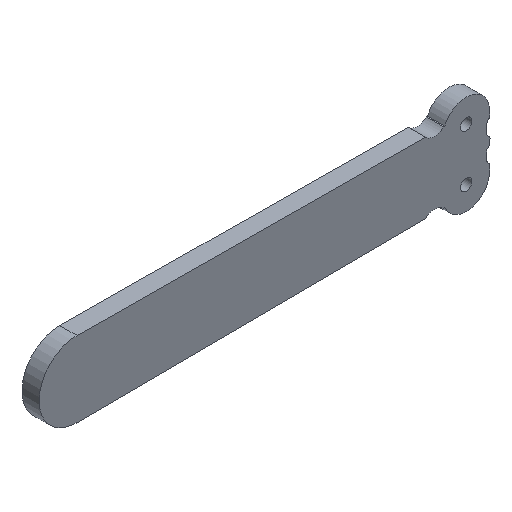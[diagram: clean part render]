
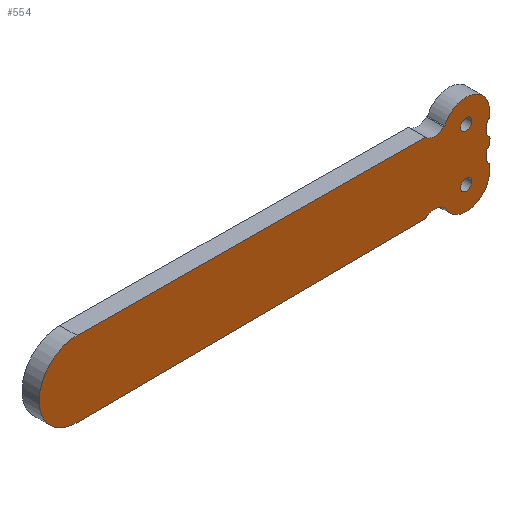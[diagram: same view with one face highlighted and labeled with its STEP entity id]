
A CAD part, isometric view. The second image highlights one B-rep face of the part: STEP entity #554.
In plain terms, the highlighted planar face has unit normal (0, -1, 0).
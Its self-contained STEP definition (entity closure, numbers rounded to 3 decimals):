
#23=FACE_BOUND('',#76,.T.);
#24=FACE_BOUND('',#77,.T.);
#27=PLANE('',#615);
#46=FACE_OUTER_BOUND('',#75,.T.);
#75=EDGE_LOOP('',(#388,#389,#390,#391,#392,#393,#394,#395,#396,#397,#398,
#399,#400,#401,#402,#403,#404,#405,#406,#407,#408,#409,#410,#411,#412));
#76=EDGE_LOOP('',(#413));
#77=EDGE_LOOP('',(#414));
#109=LINE('',#864,#164);
#110=LINE('',#868,#165);
#111=LINE('',#870,#166);
#112=LINE('',#874,#167);
#113=LINE('',#876,#168);
#114=LINE('',#880,#169);
#115=LINE('',#882,#170);
#116=LINE('',#886,#171);
#117=LINE('',#890,#172);
#118=LINE('',#894,#173);
#119=LINE('',#898,#174);
#120=LINE('',#902,#175);
#121=LINE('',#906,#176);
#122=LINE('',#909,#177);
#164=VECTOR('',#692,10.);
#165=VECTOR('',#695,10.);
#166=VECTOR('',#696,10.);
#167=VECTOR('',#699,10.);
#168=VECTOR('',#700,10.);
#169=VECTOR('',#703,10.);
#170=VECTOR('',#704,10.);
#171=VECTOR('',#707,10.);
#172=VECTOR('',#710,10.);
#173=VECTOR('',#713,10.);
#174=VECTOR('',#716,10.);
#175=VECTOR('',#719,10.);
#176=VECTOR('',#722,10.);
#177=VECTOR('',#725,10.);
#215=CIRCLE('',#607,1.575);
#217=CIRCLE('',#610,1.575);
#220=CIRCLE('',#614,1.);
#221=CIRCLE('',#616,1.);
#222=CIRCLE('',#617,1.);
#223=CIRCLE('',#618,1.);
#224=CIRCLE('',#619,1.);
#225=CIRCLE('',#620,1.);
#226=CIRCLE('',#621,6.5);
#227=CIRCLE('',#622,3.5);
#228=CIRCLE('',#623,10.503);
#229=CIRCLE('',#624,3.5);
#230=CIRCLE('',#625,6.5);
#241=VERTEX_POINT('',#842);
#243=VERTEX_POINT('',#848);
#247=VERTEX_POINT('',#857);
#248=VERTEX_POINT('',#859);
#249=VERTEX_POINT('',#863);
#250=VERTEX_POINT('',#865);
#251=VERTEX_POINT('',#867);
#252=VERTEX_POINT('',#869);
#253=VERTEX_POINT('',#871);
#254=VERTEX_POINT('',#873);
#255=VERTEX_POINT('',#875);
#256=VERTEX_POINT('',#877);
#257=VERTEX_POINT('',#879);
#258=VERTEX_POINT('',#881);
#259=VERTEX_POINT('',#883);
#260=VERTEX_POINT('',#885);
#261=VERTEX_POINT('',#887);
#262=VERTEX_POINT('',#889);
#263=VERTEX_POINT('',#891);
#264=VERTEX_POINT('',#893);
#265=VERTEX_POINT('',#895);
#266=VERTEX_POINT('',#897);
#267=VERTEX_POINT('',#899);
#268=VERTEX_POINT('',#901);
#269=VERTEX_POINT('',#903);
#270=VERTEX_POINT('',#905);
#271=VERTEX_POINT('',#907);
#295=EDGE_CURVE('',#241,#241,#215,.T.);
#298=EDGE_CURVE('',#243,#243,#217,.T.);
#303=EDGE_CURVE('',#247,#248,#220,.T.);
#305=EDGE_CURVE('',#249,#247,#109,.T.);
#306=EDGE_CURVE('',#250,#249,#221,.T.);
#307=EDGE_CURVE('',#251,#250,#110,.T.);
#308=EDGE_CURVE('',#252,#251,#111,.T.);
#309=EDGE_CURVE('',#253,#252,#222,.T.);
#310=EDGE_CURVE('',#254,#253,#112,.T.);
#311=EDGE_CURVE('',#255,#254,#113,.T.);
#312=EDGE_CURVE('',#256,#255,#223,.T.);
#313=EDGE_CURVE('',#257,#256,#114,.T.);
#314=EDGE_CURVE('',#258,#257,#115,.T.);
#315=EDGE_CURVE('',#259,#258,#224,.T.);
#316=EDGE_CURVE('',#260,#259,#116,.T.);
#317=EDGE_CURVE('',#261,#260,#225,.T.);
#318=EDGE_CURVE('',#262,#261,#117,.T.);
#319=EDGE_CURVE('',#263,#262,#226,.T.);
#320=EDGE_CURVE('',#264,#263,#118,.T.);
#321=EDGE_CURVE('',#265,#264,#227,.T.);
#322=EDGE_CURVE('',#266,#265,#119,.T.);
#323=EDGE_CURVE('',#267,#266,#228,.T.);
#324=EDGE_CURVE('',#268,#267,#120,.T.);
#325=EDGE_CURVE('',#269,#268,#229,.T.);
#326=EDGE_CURVE('',#270,#269,#121,.T.);
#327=EDGE_CURVE('',#271,#270,#230,.T.);
#328=EDGE_CURVE('',#248,#271,#122,.T.);
#388=ORIENTED_EDGE('',*,*,#303,.F.);
#389=ORIENTED_EDGE('',*,*,#305,.F.);
#390=ORIENTED_EDGE('',*,*,#306,.F.);
#391=ORIENTED_EDGE('',*,*,#307,.F.);
#392=ORIENTED_EDGE('',*,*,#308,.F.);
#393=ORIENTED_EDGE('',*,*,#309,.F.);
#394=ORIENTED_EDGE('',*,*,#310,.F.);
#395=ORIENTED_EDGE('',*,*,#311,.F.);
#396=ORIENTED_EDGE('',*,*,#312,.F.);
#397=ORIENTED_EDGE('',*,*,#313,.F.);
#398=ORIENTED_EDGE('',*,*,#314,.F.);
#399=ORIENTED_EDGE('',*,*,#315,.F.);
#400=ORIENTED_EDGE('',*,*,#316,.F.);
#401=ORIENTED_EDGE('',*,*,#317,.F.);
#402=ORIENTED_EDGE('',*,*,#318,.F.);
#403=ORIENTED_EDGE('',*,*,#319,.F.);
#404=ORIENTED_EDGE('',*,*,#320,.F.);
#405=ORIENTED_EDGE('',*,*,#321,.F.);
#406=ORIENTED_EDGE('',*,*,#322,.F.);
#407=ORIENTED_EDGE('',*,*,#323,.F.);
#408=ORIENTED_EDGE('',*,*,#324,.F.);
#409=ORIENTED_EDGE('',*,*,#325,.F.);
#410=ORIENTED_EDGE('',*,*,#326,.F.);
#411=ORIENTED_EDGE('',*,*,#327,.F.);
#412=ORIENTED_EDGE('',*,*,#328,.F.);
#413=ORIENTED_EDGE('',*,*,#295,.T.);
#414=ORIENTED_EDGE('',*,*,#298,.T.);
#554=ADVANCED_FACE('',(#46,#23,#24),#27,.F.);
#607=AXIS2_PLACEMENT_3D('',#843,#670,#671);
#610=AXIS2_PLACEMENT_3D('',#849,#677,#678);
#614=AXIS2_PLACEMENT_3D('',#860,#687,#688);
#615=AXIS2_PLACEMENT_3D('',#862,#690,#691);
#616=AXIS2_PLACEMENT_3D('',#866,#693,#694);
#617=AXIS2_PLACEMENT_3D('',#872,#697,#698);
#618=AXIS2_PLACEMENT_3D('',#878,#701,#702);
#619=AXIS2_PLACEMENT_3D('',#884,#705,#706);
#620=AXIS2_PLACEMENT_3D('',#888,#708,#709);
#621=AXIS2_PLACEMENT_3D('',#892,#711,#712);
#622=AXIS2_PLACEMENT_3D('',#896,#714,#715);
#623=AXIS2_PLACEMENT_3D('',#900,#717,#718);
#624=AXIS2_PLACEMENT_3D('',#904,#720,#721);
#625=AXIS2_PLACEMENT_3D('',#908,#723,#724);
#670=DIRECTION('center_axis',(0.,1.,0.));
#671=DIRECTION('ref_axis',(1.,0.,0.));
#677=DIRECTION('center_axis',(0.,1.,0.));
#678=DIRECTION('ref_axis',(1.,0.,0.));
#687=DIRECTION('center_axis',(0.,1.,0.));
#688=DIRECTION('ref_axis',(0.924,0.,0.383));
#690=DIRECTION('center_axis',(0.,1.,0.));
#691=DIRECTION('ref_axis',(1.,0.,0.));
#692=DIRECTION('',(0.707,0.,-0.707));
#693=DIRECTION('center_axis',(0.,-1.,0.));
#694=DIRECTION('ref_axis',(-0.924,0.,-0.383));
#695=DIRECTION('',(0.,0.,-1.));
#696=DIRECTION('',(-0.707,0.,-0.707));
#697=DIRECTION('center_axis',(0.,1.,0.));
#698=DIRECTION('ref_axis',(0.924,0.,-0.383));
#699=DIRECTION('',(0.,0.,-1.));
#700=DIRECTION('',(0.,0.,-1.));
#701=DIRECTION('center_axis',(0.,1.,0.));
#702=DIRECTION('ref_axis',(0.924,0.,0.383));
#703=DIRECTION('',(0.707,0.,-0.707));
#704=DIRECTION('',(0.,0.,-1.));
#705=DIRECTION('center_axis',(0.,-1.,0.));
#706=DIRECTION('ref_axis',(-0.924,0.,0.383));
#707=DIRECTION('',(-0.707,0.,-0.707));
#708=DIRECTION('center_axis',(0.,1.,0.));
#709=DIRECTION('ref_axis',(0.924,0.,-0.383));
#710=DIRECTION('',(0.,0.,-1.));
#711=DIRECTION('center_axis',(0.,1.,0.));
#712=DIRECTION('ref_axis',(-0.921,0.,0.389));
#713=DIRECTION('',(1.,0.,0.));
#714=DIRECTION('center_axis',(0.,-1.,0.));
#715=DIRECTION('ref_axis',(0.714,0.,-0.7));
#716=DIRECTION('',(1.,0.,-0.007));
#717=DIRECTION('center_axis',(0.,1.,0.));
#718=DIRECTION('ref_axis',(0.007,0.,-1.));
#719=DIRECTION('',(-1.,0.,-0.007));
#720=DIRECTION('center_axis',(0.,-1.,0.));
#721=DIRECTION('ref_axis',(-0.714,0.,0.7));
#722=DIRECTION('',(-1.,0.,0.));
#723=DIRECTION('center_axis',(0.,1.,0.));
#724=DIRECTION('ref_axis',(1.,0.,0.001));
#725=DIRECTION('',(0.,0.,-1.));
#842=CARTESIAN_POINT('',(4.925,-2.4,-7.3));
#843=CARTESIAN_POINT('Origin',(6.5,-2.4,-7.3));
#848=CARTESIAN_POINT('',(4.925,-2.4,7.3));
#849=CARTESIAN_POINT('Origin',(6.5,-2.4,7.3));
#857=CARTESIAN_POINT('',(12.707,-2.4,-5.257));
#859=CARTESIAN_POINT('',(13.,-2.4,-5.964));
#860=CARTESIAN_POINT('Origin',(12.,-2.4,-5.964));
#862=CARTESIAN_POINT('Origin',(-49.695,-2.4,0.));
#863=CARTESIAN_POINT('',(12.548,-2.4,-5.098));
#864=CARTESIAN_POINT('',(12.255,-2.4,-4.805));
#865=CARTESIAN_POINT('',(12.255,-2.4,-4.391));
#866=CARTESIAN_POINT('Origin',(13.255,-2.4,-4.391));
#867=CARTESIAN_POINT('',(12.255,-2.4,-1.805));
#868=CARTESIAN_POINT('',(12.255,-2.4,-3.305));
#869=CARTESIAN_POINT('',(12.817,-2.4,-1.243));
#870=CARTESIAN_POINT('',(12.255,-2.4,-1.805));
#871=CARTESIAN_POINT('',(13.11,-2.4,-0.536));
#872=CARTESIAN_POINT('Origin',(12.11,-2.4,-0.536));
#873=CARTESIAN_POINT('',(13.11,-2.4,0.));
#874=CARTESIAN_POINT('',(13.11,-2.4,0.));
#875=CARTESIAN_POINT('',(13.11,-2.4,0.536));
#876=CARTESIAN_POINT('',(13.11,-2.4,0.));
#877=CARTESIAN_POINT('',(12.817,-2.4,1.243));
#878=CARTESIAN_POINT('Origin',(12.11,-2.4,0.536));
#879=CARTESIAN_POINT('',(12.255,-2.4,1.805));
#880=CARTESIAN_POINT('',(12.255,-2.4,1.805));
#881=CARTESIAN_POINT('',(12.255,-2.4,4.391));
#882=CARTESIAN_POINT('',(12.255,-2.4,3.305));
#883=CARTESIAN_POINT('',(12.548,-2.4,5.098));
#884=CARTESIAN_POINT('Origin',(13.255,-2.4,4.391));
#885=CARTESIAN_POINT('',(12.707,-2.4,5.257));
#886=CARTESIAN_POINT('',(12.255,-2.4,4.805));
#887=CARTESIAN_POINT('',(13.,-2.4,5.964));
#888=CARTESIAN_POINT('Origin',(12.,-2.4,5.964));
#889=CARTESIAN_POINT('',(13.,-2.4,7.295));
#890=CARTESIAN_POINT('',(13.,-2.4,0.));
#891=CARTESIAN_POINT('',(0.511,-2.4,9.826));
#892=CARTESIAN_POINT('Origin',(6.5,-2.4,7.3));
#893=CARTESIAN_POINT('',(0.131,-2.4,9.826));
#894=CARTESIAN_POINT('',(0.511,-2.4,9.826));
#895=CARTESIAN_POINT('',(-4.869,-2.4,9.826));
#896=CARTESIAN_POINT('Origin',(-2.369,-2.4,12.275));
#897=CARTESIAN_POINT('',(-101.923,-2.4,10.503));
#898=CARTESIAN_POINT('',(-4.869,-2.4,9.826));
#899=CARTESIAN_POINT('',(-101.923,-2.4,-10.503));
#900=CARTESIAN_POINT('Origin',(-101.997,-2.4,0.));
#901=CARTESIAN_POINT('',(-4.869,-2.4,-9.826));
#902=CARTESIAN_POINT('',(-4.869,-2.4,-9.826));
#903=CARTESIAN_POINT('',(0.131,-2.4,-9.826));
#904=CARTESIAN_POINT('Origin',(-2.369,-2.4,-12.275));
#905=CARTESIAN_POINT('',(0.511,-2.4,-9.826));
#906=CARTESIAN_POINT('',(0.511,-2.4,-9.826));
#907=CARTESIAN_POINT('',(13.,-2.4,-7.295));
#908=CARTESIAN_POINT('Origin',(6.5,-2.4,-7.3));
#909=CARTESIAN_POINT('',(13.,-2.4,0.));
